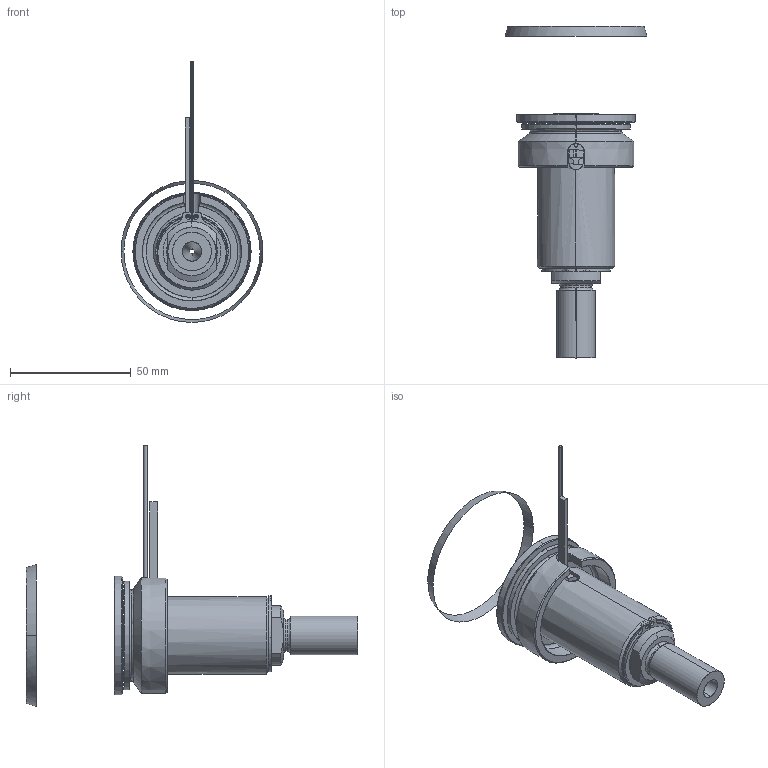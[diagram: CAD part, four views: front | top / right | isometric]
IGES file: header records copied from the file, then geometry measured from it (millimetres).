
Start section: SolidWorks IGES file using analytic representation for surfaces
Global section: file name: C:\Documents and Settings\ws-20\Desktop\TEMPORANEA\UGBE5001-S-A-P-5 [Ød-2.0 P-25 ØC-12].IGS; native system: SolidWorks 2012; preprocessor: SolidWorks 2012; author: ws-20; date: 120306.144944; units: millimetre
Bounding box: 58.79 x 137.44 x 108.04 mm (x, y, z)
Surface area: 33258.3 mm2 (no closed solid volume)
Topology: 0 solids, 0 shells, 112 faces, 2180 edges, 2180 vertices
Faces by surface type: revolution 67, bspline 45
